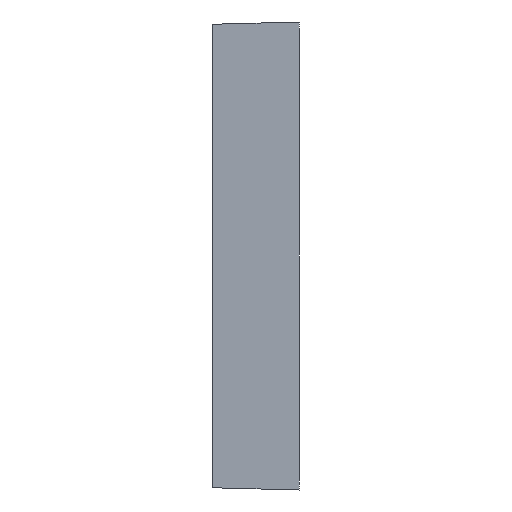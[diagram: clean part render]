
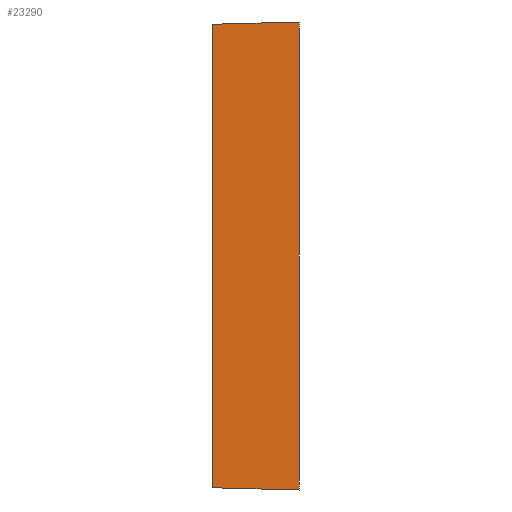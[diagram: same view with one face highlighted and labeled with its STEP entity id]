
A CAD part, left-side view. The second image highlights one B-rep face of the part: STEP entity #23290.
In plain terms, the highlighted planar face has unit normal (-1, 0.026, 0).
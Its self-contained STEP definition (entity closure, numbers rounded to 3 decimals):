
#2331 = CARTESIAN_POINT ( 'NONE',  ( -169.5, 0., 122. ) ) ;
#2736 = FACE_OUTER_BOUND ( 'NONE', #9565, .T. ) ;
#4209 = CARTESIAN_POINT ( 'NONE',  ( -169.5, 0., 122. ) ) ;
#4276 = VECTOR ( 'NONE', #6305, 1000. ) ;
#4576 = VERTEX_POINT ( 'NONE', #6530 ) ;
#5396 = VECTOR ( 'NONE', #19589, 1000. ) ;
#5810 = DIRECTION ( 'NONE',  ( -0.026, -0.999, -0.026 ) ) ;
#6305 = DIRECTION ( 'NONE',  ( -0.026, -0.999, 0.026 ) ) ;
#6530 = CARTESIAN_POINT ( 'NONE',  ( -168.322, 45., -120.822 ) ) ;
#7196 = EDGE_CURVE ( 'NONE', #4576, #23888, #15841, .T. ) ;
#7453 = CARTESIAN_POINT ( 'NONE',  ( -168.322, 45., 122. ) ) ;
#8308 = DIRECTION ( 'NONE',  ( 0.026, 1., 0. ) ) ;
#8369 = VECTOR ( 'NONE', #18888, 1000. ) ;
#8689 = DIRECTION ( 'NONE',  ( -1., 0.026, 0. ) ) ;
#8899 = AXIS2_PLACEMENT_3D ( 'NONE', #4209, #8689, #8308 ) ;
#9565 = EDGE_LOOP ( 'NONE', ( #11113, #11078, #21434, #21072 ) ) ;
#10793 = PLANE ( 'NONE',  #8899 ) ;
#11078 = ORIENTED_EDGE ( 'NONE', *, *, #24298, .F. ) ;
#11113 = ORIENTED_EDGE ( 'NONE', *, *, #16917, .F. ) ;
#13342 = CARTESIAN_POINT ( 'NONE',  ( -168.322, 45., 120.822 ) ) ;
#13985 = CARTESIAN_POINT ( 'NONE',  ( -169.5, 0., -122. ) ) ;
#14344 = LINE ( 'NONE', #2331, #4276 ) ;
#14659 = CARTESIAN_POINT ( 'NONE',  ( -169.5, 0., 122. ) ) ;
#14843 = VERTEX_POINT ( 'NONE', #21410 ) ;
#15817 = VERTEX_POINT ( 'NONE', #13342 ) ;
#15841 = LINE ( 'NONE', #13985, #24133 ) ;
#16917 = EDGE_CURVE ( 'NONE', #14843, #23888, #24438, .T. ) ;
#18888 = DIRECTION ( 'NONE',  ( 0., 0., -1. ) ) ;
#19589 = DIRECTION ( 'NONE',  ( 0., 0., -1. ) ) ;
#19698 = EDGE_CURVE ( 'NONE', #15817, #4576, #25525, .T. ) ;
#21072 = ORIENTED_EDGE ( 'NONE', *, *, #7196, .T. ) ;
#21410 = CARTESIAN_POINT ( 'NONE',  ( -169.5, 0., 122. ) ) ;
#21434 = ORIENTED_EDGE ( 'NONE', *, *, #19698, .T. ) ;
#23290 = ADVANCED_FACE ( 'NONE', ( #2736 ), #10793, .T. ) ;
#23870 = CARTESIAN_POINT ( 'NONE',  ( -169.5, 0., -122. ) ) ;
#23888 = VERTEX_POINT ( 'NONE', #23870 ) ;
#24133 = VECTOR ( 'NONE', #5810, 1000. ) ;
#24298 = EDGE_CURVE ( 'NONE', #15817, #14843, #14344, .T. ) ;
#24438 = LINE ( 'NONE', #14659, #8369 ) ;
#25525 = LINE ( 'NONE', #7453, #5396 ) ;
